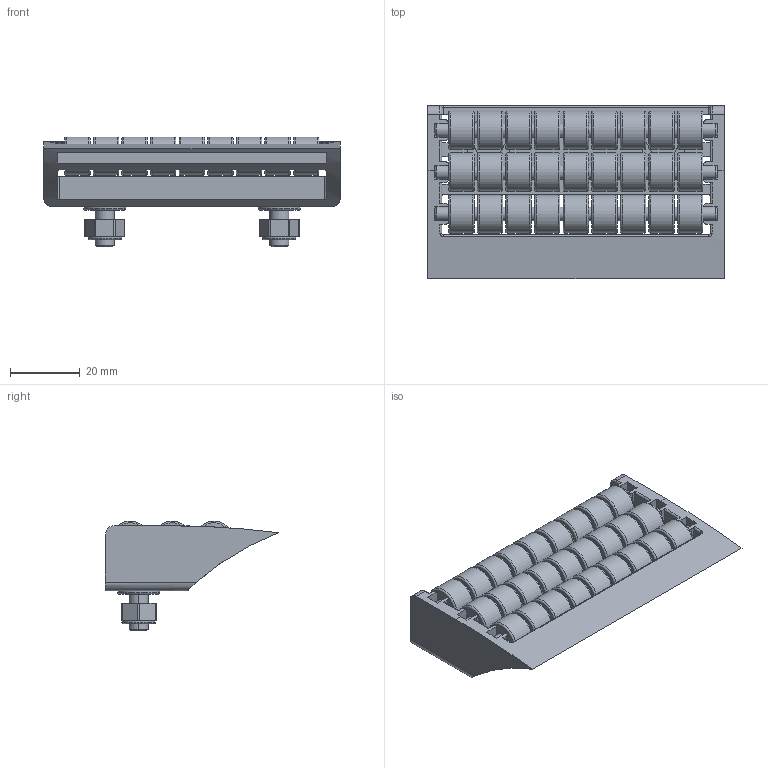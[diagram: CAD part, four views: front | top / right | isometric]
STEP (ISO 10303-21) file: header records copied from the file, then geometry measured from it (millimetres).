
FILE_DESCRIPTION(('CATIA V5 STEP Exchange'),'2;1');
FILE_NAME('C:\Users\ALI OZGUN\Desktop\alhan\AKTARMA_MODULAR\800167070.stp','2017-11-06T11:40:43+00:00',('none'),('none'),'CATIA Version 5 Release 21 GA (IN-10)','CATIA V5 STEP AP203','none');
FILE_SCHEMA(('CONFIG_CONTROL_DESIGN'));
Length unit declared in the file: millimetre
Products named in the file (1): 800167070
Bounding box: 85 x 49.6 x 31.5 mm (x, y, z)
Volume: 41810.4 mm3; surface area: 31632.5 mm2
Topology: 37 solids, 37 shells, 534 faces, 1214 edges, 756 vertices
Faces by surface type: cylinder 210, plane 176, torus 130, cone 16, bspline 2
Entity records: 14034 total; most frequent: CARTESIAN_POINT 2589, ORIENTED_EDGE 2428, DIRECTION 1972, EDGE_CURVE 1214, AXIS2_PLACEMENT_3D 1063, VERTEX_POINT 756, CIRCLE 668, EDGE_LOOP 616
